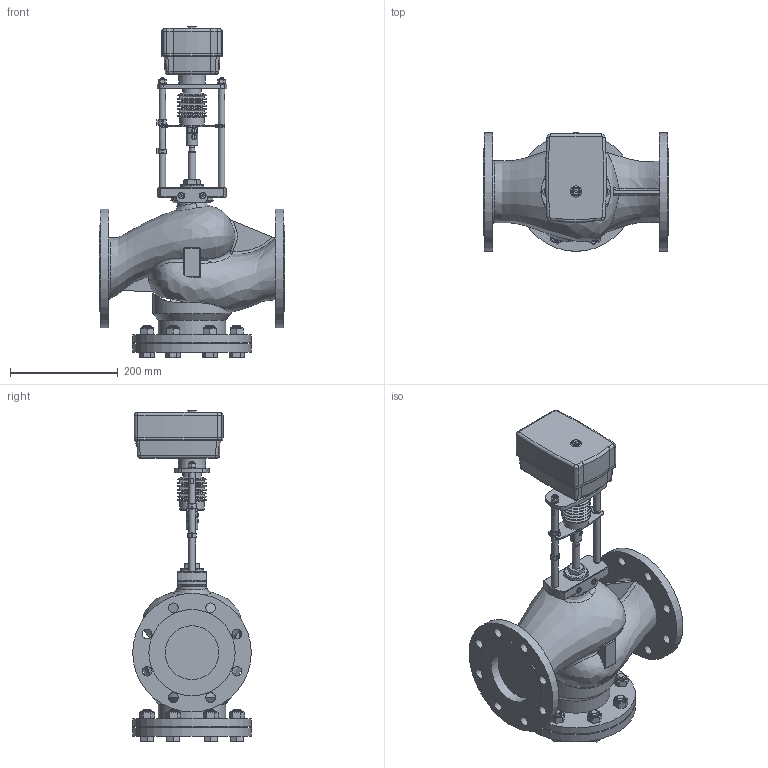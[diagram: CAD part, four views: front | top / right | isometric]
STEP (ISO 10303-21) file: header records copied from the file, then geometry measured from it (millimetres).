
FILE_DESCRIPTION(/* description */ ('Unknown'),/* implementation_level */ '2;1');
FILE_NAME(/* name */ 'TRV-K-100-160-110',/* time_stamp */ '2023-01-16T15:26:40+03:00',/* author */ ('Unknown'),/* organization */ ('Unknown'),/* preprocessor_version */ 'ST-DEVELOPER v16.7',/* originating_system */ 'DEX',/* authorisation */ $);
FILE_SCHEMA (('AUTOMOTIVE_DESIGN {1 0 10303 214 3 1 1}'));
Length unit declared in the file: millimetre
Products named in the file (6): Êëàïàí DN100-2õ; Äó100-2õ; Ñáîðêà ¹6; Áîëò Ì16-6gõ50,66,05 ÃÎÑÒ 7798-70; 羼100 鐏鳧氀; Ãàéêà Ì16-7Í,6,05 ÃÎÑÒ 5915-70
Assembly tree (19 placements, depth 2):
  Êëàïàí DN100-2õ
    Äó100-2õ
    Ñáîðêà ¹6
    Áîëò Ì16-6gõ50,66,05 ÃÎÑÒ 7798-70  x8
    羼100 鐏鳧氀
    Ãàéêà Ì16-7Í,6,05 ÃÎÑÒ 5915-70  x8
Bounding box: 345 x 220 x 614.4 mm (x, y, z)
Volume: 9637883.5 mm3; surface area: 771613.3 mm2
Topology: 19 solids, 23 shells, 896 faces, 2196 edges, 1384 vertices
Faces by surface type: plane 448, cylinder 192, cone 163, torus 45, bspline 39, sphere 9
Full cylindrical faces by diameter (mm): 4.134 x2, 5 x5, 5.2 x5, 6.5 x1, 6.647 x2, 8 x6, 10 x4, 12.002 x4, 13.8 x2, 14 x9, 15 x1, 15.6 x1, 16 x8, 18 x32, 20 x1, 35.098 x1, 44 x2, 44.5 x1, 45.4 x1, 100 x3, 125 x1, 145 x1, 160 x3, 220 x4
Entity records: 26735 total; most frequent: CARTESIAN_POINT 7746, DIRECTION 3092, ORIENTED_EDGE 2968, EDGE_CURVE 1484, AXIS2_PLACEMENT_3D 1247, VERTEX_POINT 1014, FACE_BOUND 970, EDGE_LOOP 968
